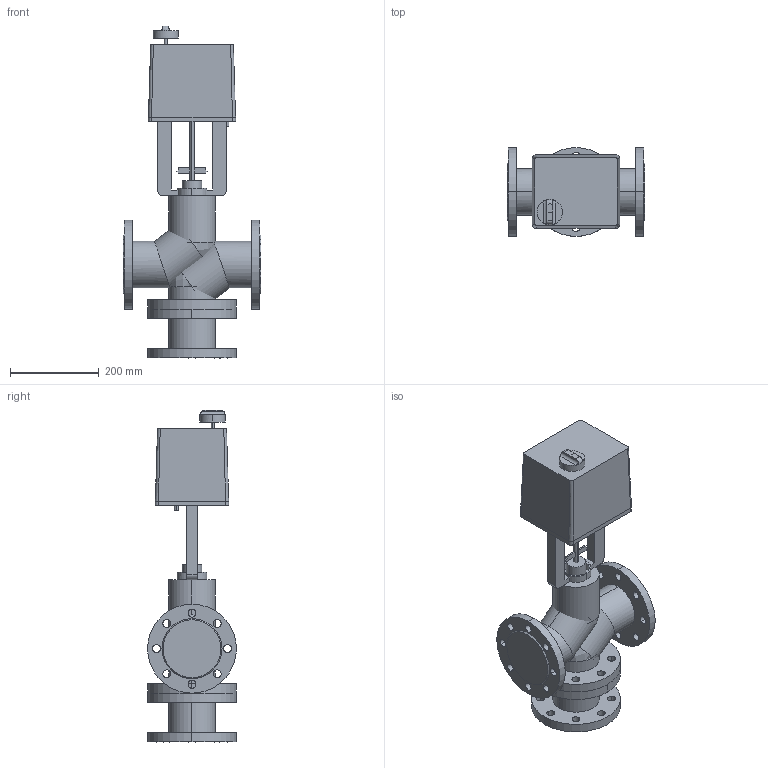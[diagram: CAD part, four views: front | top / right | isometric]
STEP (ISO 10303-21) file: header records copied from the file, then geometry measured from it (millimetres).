
FILE_DESCRIPTION(/* description */ (''),/* implementation_level */ '2;1');
FILE_NAME(/* name */ 'ТРК DN80 PN 2.5 МПа LEA 2500',/* time_stamp */ '2026-07-14T23:11:16+03:00',/* author */ (''),/* organization */ (''),/* preprocessor_version */ 'ST-DEVELOPER v20',/* originating_system */ '',/* authorisation */ '');
FILE_SCHEMA (('AP242_MANAGED_MODEL_BASED_3D_ENGINEERING_MIM_LF { 1 0 10303 442 1 1 4 }'));
Length unit declared in the file: millimetre
Products named in the file (16): TopLevelAssembly; Выдавливание; Модификатор; Модификатор_1; Выдавливание_
1; Выдавливание_
2; Вращение; Выдавливание_
3; Выдавливание_
4; Выдавливание_
5; Выдавливание_
6; Выдавливание_
7; 1600; Переход; Объемная геометрия 
присоединена; Объемная геометрия 
присоединена_1
Assembly tree (15 placements, depth 2):
  TopLevelAssembly
    Выдавливание
    Модификатор
    Модификатор_1
    Выдавливание_
1
    Выдавливание_
2
    Вращение
    Выдавливание_
3
    Выдавливание_
4
    Выдавливание_
5
    Выдавливание_
6
    Выдавливание_
7
    1600
    Переход
    Объемная геометрия 
присоединена
    Объемная геометрия 
присоединена_1
Bounding box: 310 x 200 x 747 mm (x, y, z)
Volume: 13745655.2 mm3; surface area: 1055241.7 mm2
Topology: 20 solids, 20 shells, 231 faces, 567 edges, 372 vertices
Faces by surface type: cylinder 136, plane 81, bspline 10, cone 4
Entity records: 7859 total; most frequent: CARTESIAN_POINT 1489, DIRECTION 1356, ORIENTED_EDGE 1118, EDGE_CURVE 559, AXIS2_PLACEMENT_3D 557, VERTEX_POINT 372, EDGE_LOOP 325, CIRCLE 297
